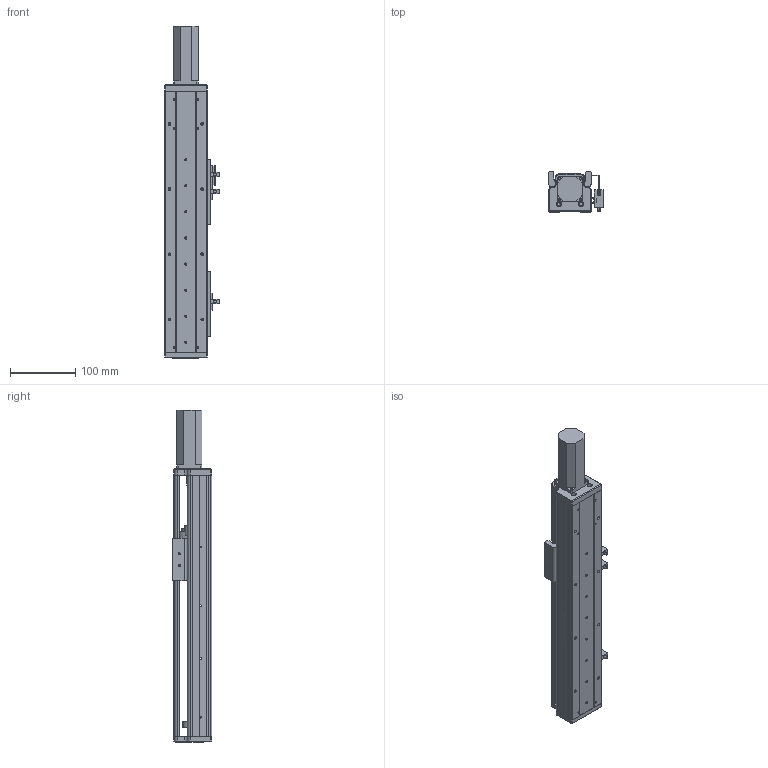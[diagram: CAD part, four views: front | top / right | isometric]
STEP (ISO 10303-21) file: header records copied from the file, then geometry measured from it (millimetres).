
FILE_DESCRIPTION (( 'STEP AP203' ), '1' );
FILE_NAME ('RY60-L1210-300-MK.SLDASM_200.step', '2021-02-20T01:55:48', ( '' ), ( '' ), 'SwSTEP 2.0', 'SolidWorks 2012', '' );
FILE_SCHEMA (( 'CONFIG_CONTROL_DESIGN' ));
Length unit declared in the file: millimetre
Products named in the file (13): RY60綴裔啣; SFN1210螺母(没线割）; 滅袉蝶18-10; RY60-L1210-300-MK.SLDASM_200; 侂狟100W; 滅袉蝶18-20; RY80俋离覜茼え; 覜茼ん672; 672嫖萇羲壽假蚾釱; RY60前盖板100(PCD46-M4); RY60-300倰第裔啣-MK_200; RY60臏賑輸; RY60-300倰第菁釱-MK_200
Assembly tree (17 placements, depth 2):
  RY60-L1210-300-MK.SLDASM_200
    RY60-300倰第菁釱-MK_200
    RY60臏賑輸
    RY60-300倰第裔啣-MK_200
    RY60前盖板100(PCD46-M4)
    672嫖萇羲壽假蚾釱  x2
    覜茼ん672  x3
    RY80俋离覜茼え
    侂狟100W
    滅袉蝶18-20  x2
    滅袉蝶18-10  x2
    RY60綴裔啣
    SFN1210螺母(没线割）
Bounding box: 83.7 x 61 x 509 mm (x, y, z)
Volume: 649784.6 mm3; surface area: 296727.9 mm2
Topology: 18 solids, 18 shells, 1079 faces, 3014 edges, 1950 vertices
Faces by surface type: plane 525, cylinder 486, cone 59, bspline 9
Entity records: 34382 total; most frequent: CARTESIAN_POINT 7890, ORIENTED_EDGE 5300, DIRECTION 5141, EDGE_CURVE 2650, AXIS2_PLACEMENT_3D 1779, VERTEX_POINT 1734, VECTOR 1583, LINE 1583
